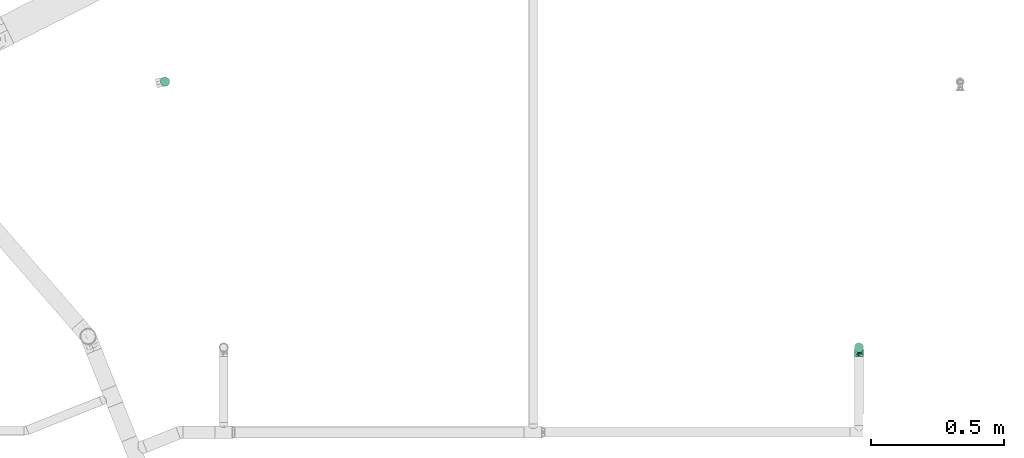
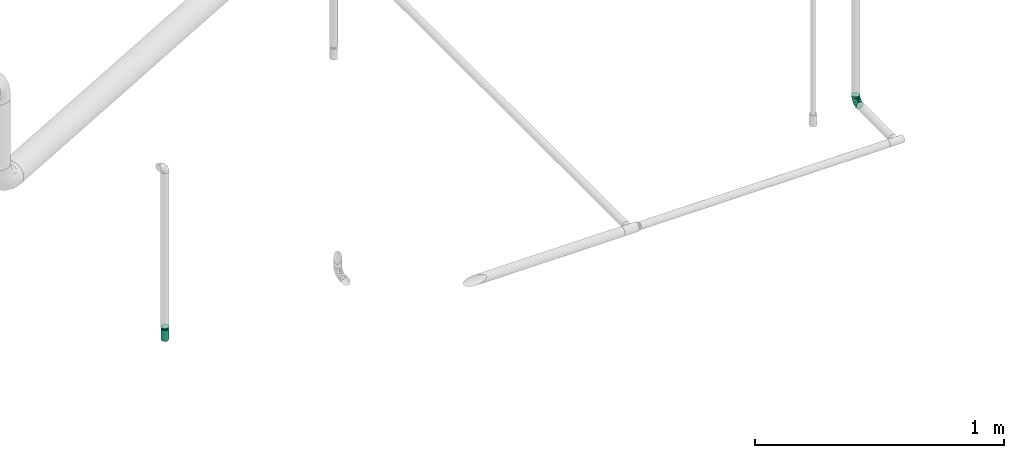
# One storey, part 46 of 94: 2 flow fittings, 1 flow terminal.
"""IFC2X3 building model written with IfcOpenShell, lengths in millimetres."""

import ifcopenshell
import ifcopenshell.guid

model = None  # the IFC model being written
_history = None  # IfcOwnerHistory: only IFC2X3 demands one
_inside = {}  # id of a spatial element -> (the spatial element, [elements in it])
_under = {}  # id of a project, library or spatial element -> (it, [spatial elements below it])
_declared = {}  # id of a project -> (the project, [libraries it declares])
_typed = {}  # id of a type object -> (the type object, [elements of that type])
_made_of = {}  # id of a material, layer set ... -> (it, [elements and type objects made of it])


def new_model(schema):
    """Start an empty IFC model of exactly this schema.

    Asked for "IFC4X3", IfcOpenShell would pick the latest addendum, in which some entities
    have other attributes; the version numbers below select the first issue.
    IFC2X3 requires an IfcOwnerHistory on every rooted entity: one is made here for all.
    """
    global model, _history
    if schema == "IFC4X3":
        model = ifcopenshell.file(schema_version=(4, 3, 0, 0))
    else:
        model = ifcopenshell.file(schema=schema)
    _inside.clear()
    _under.clear()
    _declared.clear()
    _typed.clear()
    _made_of.clear()
    _history = None
    if model.schema == "IFC2X3":
        org = make("IfcOrganization", Name="unknown")
        user = make(
            "IfcPersonAndOrganization",
            ThePerson=make("IfcPerson", FamilyName="unknown"),
            TheOrganization=org,
        )
        app = make(
            "IfcApplication",
            ApplicationDeveloper=org,
            Version="unknown",
            ApplicationFullName="unknown",
            ApplicationIdentifier="unknown",
        )
        _history = make(
            "IfcOwnerHistory",
            OwningUser=user,
            OwningApplication=app,
            ChangeAction="ADDED",
            CreationDate=0,
        )
    return model


def make(cls, **values):
    """One entity of the class cls with the attributes given. An attribute that is None is left unset."""
    return model.create_entity(
        cls, **{name: value for name, value in values.items() if value is not None}
    )


def entity(cls, *values):
    """Any entity or typed value of the class cls, its attributes in the order of the schema. None: left unset."""
    e = model.create_entity(cls)
    for i, value in enumerate(values):
        if value is not None:
            e[i] = value
    return e


def rooted(cls, **values):
    """An entity with a GlobalId (a new one), such as an element, a storey or a relation."""
    return make(cls, GlobalId=ifcopenshell.guid.new(), OwnerHistory=_history, **values)


def si_unit(unit_type, name, prefix=None):
    """IfcSIUnit, for example si_unit("LENGTHUNIT", "METRE", prefix="MILLI")."""
    return make("IfcSIUnit", UnitType=unit_type, Prefix=prefix, Name=name)


def converted_unit(unit_type, name, factor, base, dimensions=None, offset=None):
    """IfcConversionBasedUnit, such as the inch: factor (a typed value) times the base unit."""
    return make(
        "IfcConversionBasedUnit"
        if offset is None
        else "IfcConversionBasedUnitWithOffset",
        ConversionOffset=offset,
        Dimensions=None
        if dimensions is None
        else entity("IfcDimensionalExponents", *dimensions),
        UnitType=unit_type,
        Name=name,
        ConversionFactor=make(
            "IfcMeasureWithUnit", ValueComponent=factor, UnitComponent=base
        ),
    )


def derived_unit(unit_type, elements):
    """IfcDerivedUnit: a product of units, each with its exponent."""
    return make(
        "IfcDerivedUnit",
        Elements=[
            make("IfcDerivedUnitElement", Unit=unit, Exponent=power)
            for unit, power in elements
        ],
        UnitType=unit_type,
    )


def assignment(units):
    """IfcUnitAssignment: the units of a project."""
    return None if units is None else make("IfcUnitAssignment", Units=units)


def point(xyz):
    """IfcCartesianPoint."""
    return None if xyz is None else make("IfcCartesianPoint", Coordinates=xyz)


def direction(xyz):
    """IfcDirection."""
    return None if xyz is None else make("IfcDirection", DirectionRatios=xyz)


def frame(location, z_axis=None, x_axis=None):
    """IfcAxis2Placement3D, a coordinate frame: its origin and axes. An axis left out is left unset."""
    return make(
        "IfcAxis2Placement3D",
        Location=point(location),
        Axis=direction(z_axis),
        RefDirection=direction(x_axis),
    )


def origin_with_axes():
    """The frame at (0, 0, 0) with the z axis (0, 0, 1) and the x axis (1, 0, 0) written out."""
    return frame((0.0, 0.0, 0.0), z_axis=(0.0, 0.0, 1.0), x_axis=(1.0, 0.0, 0.0))


def place(relative_to, where):
    """IfcLocalPlacement: puts the frame where relative to a parent placement (None: the world)."""
    return make(
        "IfcLocalPlacement", PlacementRelTo=relative_to, RelativePlacement=where
    )


def context(
    kind, dimensions, precision=None, world=None, true_north=None, identifier=None
):
    """IfcGeometricRepresentationContext, for example the 3D "Model" context."""
    return make(
        "IfcGeometricRepresentationContext",
        ContextIdentifier=identifier,
        ContextType=kind,
        CoordinateSpaceDimension=dimensions,
        Precision=precision,
        WorldCoordinateSystem=world,
        TrueNorth=true_north,
    )


def subcontext(parent, identifier, kind, view, scale=None):
    """IfcGeometricRepresentationSubContext, for example "Body" below "Model"."""
    return make(
        "IfcGeometricRepresentationSubContext",
        ContextIdentifier=identifier,
        ContextType=kind,
        ParentContext=parent,
        TargetScale=scale,
        TargetView=view,
    )


def project(units=None, contexts=None):
    """IfcProject with its units and contexts."""
    return rooted(
        "IfcProject",
        Name="project",
        RepresentationContexts=contexts,
        UnitsInContext=assignment(units),
    )


def spatial(cls, under=None, at=None, **own):
    """A site, building, storey or space (cls), placed at a placement, below another one or the project."""
    s = rooted(cls, ObjectPlacement=at, **own)
    if under is not None:
        _under.setdefault(under.id(), (under, []))[1].append(s)
    return s


def faces_of(points, faces, orient=None, outer=None):
    """IfcFace entities. A face is a list of loops; a loop is a list of indices into points, from 0.

    orient and outer hold one flag for each loop. By default every Orientation is true, the
    first loop of a face is its IfcFaceOuterBound and the others are IfcFaceBound.
    """
    made = []
    for i, loops in enumerate(faces):
        bounds = []
        for j, loop in enumerate(loops):
            is_outer = j == 0 if outer is None else outer[i][j]
            bounds.append(
                make(
                    "IfcFaceOuterBound" if is_outer else "IfcFaceBound",
                    Bound=make("IfcPolyLoop", Polygon=[points[k] for k in loop]),
                    Orientation=True if orient is None else orient[i][j],
                )
            )
        made.append(make("IfcFace", Bounds=bounds))
    return made


def open_shell(faces, orient=None, outer=None):
    """The faces of one IfcOpenShell. surface_model builds it on its shared points."""
    return ("IfcOpenShell", faces, orient, outer)


def surface_model(cls, points, shells):
    """IfcFaceBasedSurfaceModel or IfcShellBasedSurfaceModel (cls): surfaces that need not close."""
    shared = [point(p) for p in points]
    made = [make(c, CfsFaces=faces_of(shared, fs, o, b)) for c, fs, o, b in shells]
    if cls == "IfcFaceBasedSurfaceModel":
        return make(cls, FbsmFaces=made)
    return make(cls, SbsmBoundary=made)


def shape(context_of_items, identifier, shape_type, items):
    """IfcShapeRepresentation: the items that make up one representation, for example the "Body"."""
    return make(
        "IfcShapeRepresentation",
        ContextOfItems=context_of_items,
        RepresentationIdentifier=identifier,
        RepresentationType=shape_type,
        Items=items,
    )


def source(mapping_origin, context_of_items, identifier, shape_type, items):
    """IfcRepresentationMap: a shape defined once, which mapped items show again and again."""
    return make(
        "IfcRepresentationMap",
        MappingOrigin=mapping_origin,
        MappedRepresentation=shape(context_of_items, identifier, shape_type, items),
    )


def transform(
    local_origin,
    x_axis=None,
    y_axis=None,
    z_axis=None,
    scale=None,
    scale2=None,
    scale3=None,
    uniform=True,
):
    """IfcCartesianTransformationOperator3D, or its non-uniform kind. x_axis, y_axis, z_axis: its Axis1, 2, 3."""
    if uniform:
        return make(
            "IfcCartesianTransformationOperator3D",
            Axis1=direction(x_axis),
            Axis2=direction(y_axis),
            LocalOrigin=point(local_origin),
            Scale=scale,
            Axis3=direction(z_axis),
        )
    return make(
        "IfcCartesianTransformationOperator3DnonUniform",
        Axis1=direction(x_axis),
        Axis2=direction(y_axis),
        LocalOrigin=point(local_origin),
        Scale=scale,
        Axis3=direction(z_axis),
        Scale2=scale2,
        Scale3=scale3,
    )


def mapped(mapping_source, mapping_target):
    """IfcMappedItem: shows the shape of a source again, moved by a transform."""
    return make(
        "IfcMappedItem", MappingSource=mapping_source, MappingTarget=mapping_target
    )


def made_of(thing, what):
    """Note that an element or type object is made of a material, layer set ...; save() writes the relation."""
    if what is not None:
        _made_of.setdefault(what.id(), (what, []))[1].append(thing)
    return thing


def type_object(cls, material=None, **own):
    """A type object (cls), such as IfcWallType, which elements share."""
    return made_of(rooted(cls, **own), material)


def element(
    cls,
    number,
    at=None,
    inside=None,
    cuts=None,
    type_object=None,
    material=None,
    context=None,
    identifier="Body",
    shape_type=None,
    held_by="IfcProductDefinitionShape",
    body=None,
    shapes=None,
    **own,
):
    """One element of the class cls, such as IfcWall. Its Tag is "e" and its number.

    at: its placement. inside: the storey or other place that contains it. cuts: it is an
    opening in that element (IfcRelVoidsElement). A single representation is given by context,
    identifier, shape_type and body (its items); several are given by shapes. held_by: the class
    of the entity that holds the representations. save() writes the other relations.
    """
    e = rooted(cls, Tag="e%d" % number, ObjectPlacement=at, **own)
    if body is not None:
        shapes = [shape(context, identifier, shape_type, body)]
    if shapes is not None:
        e.Representation = make(held_by, Representations=shapes)
    if inside is not None:
        _inside.setdefault(inside.id(), (inside, []))[1].append(e)
    if cuts is not None:
        rooted(
            "IfcRelVoidsElement", RelatingBuildingElement=cuts, RelatedOpeningElement=e
        )
    if type_object is not None:
        _typed.setdefault(type_object.id(), (type_object, []))[1].append(e)
    return made_of(e, material)


def aggregate(whole, parts):
    """IfcRelAggregates: a whole, such as a stair, and the parts it consists of."""
    return rooted("IfcRelAggregates", RelatingObject=whole, RelatedObjects=parts)


def save(model, path):
    """Write the relations noted so far, then the file.

    IfcRelAggregates (storeys below a building ...), IfcRelContainedInSpatialStructure (elements
    in a storey), IfcRelDefinesByType, IfcRelAssociatesMaterial and IfcRelDeclares: one each for
    every whole, place, type object, material and project.
    """
    for whole, parts in _under.values():
        aggregate(whole, parts)
    for where, things in _inside.values():
        rooted(
            "IfcRelContainedInSpatialStructure",
            RelatedElements=things,
            RelatingStructure=where,
        )
    for kind, things in _typed.values():
        rooted("IfcRelDefinesByType", RelatedObjects=things, RelatingType=kind)
    for what, things in _made_of.values():
        rooted("IfcRelAssociatesMaterial", RelatedObjects=things, RelatingMaterial=what)
    for by, libraries in _declared.values():
        rooted("IfcRelDeclares", RelatingContext=by, RelatedDefinitions=libraries)
    model.write(path)


model = new_model("IFC2X3")

# Units and contexts
model_context = context("Model", 3, precision=0.01, world=frame((0.0, 4.29681676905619e-09, 0.0)), true_north=direction((4.01073788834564e-13, 1.0)))
plan_context = context("Plan", 3, precision=0.01, world=frame((0.0, 4.29681676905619e-09, 0.0)), true_north=direction((4.01073788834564e-13, 1.0)))
body_context = subcontext(model_context, "Body", "Model", "MODEL_VIEW")
ifc_project = project(units=[converted_unit("PLANEANGLEUNIT", "DEGREE", entity("IfcPositiveLengthMeasure", 0.0174532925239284), si_unit("PLANEANGLEUNIT", "RADIAN"), dimensions=[0, 0, 0, 0, 0, 0, 0]), si_unit("AREAUNIT", "SQUARE_METRE"), si_unit("LENGTHUNIT", "METRE", prefix="MILLI"), si_unit("MASSUNIT", "GRAM", prefix="KILO"), si_unit("POWERUNIT", "WATT"), si_unit("PRESSUREUNIT", "PASCAL", prefix="KILO"), si_unit("FORCEUNIT", "NEWTON", prefix="KILO"), si_unit("ELECTRICVOLTAGEUNIT", "VOLT"), si_unit("ELECTRICCURRENTUNIT", "AMPERE"), si_unit("THERMODYNAMICTEMPERATUREUNIT", "DEGREE_CELSIUS"), si_unit("TIMEUNIT", "SECOND"), si_unit("VOLUMEUNIT", "CUBIC_METRE"), derived_unit("LINEARVELOCITYUNIT", [(si_unit("LENGTHUNIT", "METRE"), 1), (si_unit("TIMEUNIT", "SECOND"), -1)]), derived_unit("VOLUMETRICFLOWRATEUNIT", [(si_unit("VOLUMEUNIT", "CUBIC_METRE"), 1), (si_unit("TIMEUNIT", "SECOND"), -1)]), derived_unit("THERMALTRANSMITTANCEUNIT", [(si_unit("POWERUNIT", "WATT"), 1), (si_unit("THERMODYNAMICTEMPERATUREUNIT", "KELVIN"), -1), (si_unit("AREAUNIT", "SQUARE_METRE"), -1)]), derived_unit("SOUNDPRESSUREUNIT", [(si_unit("PRESSUREUNIT", "PASCAL"), 1)])], contexts=[model_context, plan_context])

# Site, building, storey
site_placement = place(None, frame((0.0, -4.29681676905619e-09, 0.0), z_axis=(0.0, 0.0, 1.0), x_axis=(1.0, 0.0, 0.0)))
site = spatial("IfcSite", under=ifc_project, at=site_placement, CompositionType="ELEMENT")
building_placement = place(site_placement, frame((0.0, 4.29681676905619e-09, 0.0), z_axis=(0.0, 0.0, 1.0), x_axis=(1.0, 0.0, 0.0)))
building = spatial("IfcBuilding", under=site, at=building_placement, Name="mc-building", CompositionType="ELEMENT")
storey_placement = place(building_placement, frame((0.0, 0.0, 210900.0), z_axis=(0.0, 0.0, 1.0), x_axis=(1.0, 0.0, 0.0)))
storey = spatial("IfcBuildingStorey", under=building, at=storey_placement, Name="Nivå F", CompositionType="ELEMENT", Elevation=210900.0)

# Flow fittings
pipe_fitting_type_1 = type_object("IfcPipeFittingType", Name="magi_pipe_fe_elbow_short_001", PredefinedType="BEND")
shared_shape_1 = source(origin_with_axes(), body_context, "Body", "SurfaceModel", [
    surface_model("IfcShellBasedSurfaceModel", [(-33.8, 8.45, -14.63583), (-33.8, 4.37404, -16.32415), (-33.8, 11.9501, -11.9501), (-33.8, -11.9501, -11.9501), (-33.8, -14.63583, -8.45), (-33.8, -8.45, -14.63583), (-33.8, 0.0, -16.9), (-33.8, -4.37404, -16.32415), (-33.8, -4.37404, 16.32415), (-33.8, 0.0, 16.9), (-33.8, -8.45, 14.63583), (-33.8, 16.32415, -4.37404), (-33.8, 14.63583, -8.45), (-33.8, -16.32415, -4.37404), (-33.8, -16.9, 0.0), (-33.8, -16.32415, 4.37404), (-33.8, 11.9501, 11.9501), (-33.8, 14.63583, 8.45), (-33.8, 16.32415, 4.37404), (-33.8, 4.37404, 16.32415), (-33.8, 8.45, 14.63583), (-33.8, -14.63583, 8.45), (-33.8, -11.9501, 11.9501), (-33.8, 16.9, 0.0), (-11.9501, 33.8, -11.9501), (0.0, 33.8, -16.9), (-4.37404, 33.8, -16.32415), (-8.45, 33.8, -14.63583), (-14.63583, 33.8, -8.45), (-16.32415, 33.8, -4.37404), (14.63583, 33.8, -8.45), (8.45, 33.8, 14.63583), (16.32415, 33.8, -4.37404), (8.45, 33.8, -14.63583), (11.9501, 33.8, -11.9501), (4.37404, 33.8, -16.32415), (16.32415, 33.8, 4.37404), (16.9, 33.8, 0.0), (-11.9501, 33.8, 11.9501), (-16.32415, 33.8, 4.37404), (-14.63583, 33.8, 8.45), (-8.45, 33.8, 14.63583), (-4.37404, 33.8, 16.32415), (11.9501, 33.8, 11.9501), (14.63583, 33.8, 8.45), (0.0, 33.8, 16.9), (4.37404, 33.8, 16.32415), (-16.9, 33.8, 0.0), (-24.79389, -13.12945, 9.48721), (-22.19287, -9.75018, 12.59315), (-24.09897, -14.97035, 0.0), (-14.93934, -10.76256, 8.5297), (-22.46095, -14.75051, 5.27077), (14.75051, 22.46094, 5.27077), (11.9251, 13.23888, 4.33236), (13.04069, 14.39795, 0.0), (7.71387, 13.68847, 11.55891), (9.75018, 22.19287, 12.59315), (4.10169, 13.0571, 14.04018), (-24.84007, -6.39063, 15.2048), (-25.81779, -2.23879, 16.61097), (-23.66549, 2.59054, 16.87119), (-26.50418, 14.06512, 11.08152), (-24.21253, 17.66365, 7.72657), (-29.58514, 15.86957, 7.00283), (-6.17382, -7.5455, 0.0), (-13.23888, -11.9251, 4.33236), (-14.39795, -13.04069, 0.0), (-17.81434, 18.87373, 11.97104), (-6.30846, 29.15138, 15.82987), (-2.31622, 25.28002, 16.85849), (-29.23923, 10.23435, 13.77053), (-1.45439, -2.85688, 7.61475), (-0.28326, 0.34872, 10.09509), (-5.74484, -4.04709, 10.4122), (-4.41137, 11.31918, 16.59407), (-8.39727, 3.10034, 15.7812), (-1.72649, 9.1306, 15.53089), (-17.39909, 24.75344, 7.64977), (-26.19233, 20.0512, 0.0), (-28.14518, 17.29657, 4.25857), (-26.05147, 6.6281, 15.96447), (-5.87354, 16.61944, 16.86968), (-12.51807, 12.51807, 16.48937), (-10.06312, 7.38516, 16.81295), (-3.01882, 3.01882, 13.81718), (-13.0571, -4.10169, 14.04018), (-16.82553, -0.15166, 16.38038), (10.76256, 14.93934, 8.5297), (13.12945, 24.79389, 9.48721), (6.39063, 24.84007, 15.2048), (2.23879, 25.81779, 16.61097), (-13.68847, -7.71387, 11.55891), (14.97035, 24.09897, 0.0), (-7.30894, 22.89991, 16.09489), (-10.67958, 26.17414, 14.008), (-12.78295, 18.26924, 15.06066), (-13.88562, 22.45231, 12.93244), (-18.04944, 15.16501, 14.04434), (-23.11658, 20.08178, 4.02986), (-21.84989, 21.84989, 0.0), (-18.55817, 25.48277, 3.93065), (-13.95142, 26.94732, 11.03289), (-18.57098, 7.23906, 16.59756), (-16.58335, 4.14122, 16.89279), (-17.96666, 11.46709, 15.63151), (-9.84453, 17.54304, 16.18938), (0.15166, 16.82553, 16.38038), (-23.27207, 11.47201, 14.23154), (3.84842, 5.86994, 10.70473), (-8.0212, -7.54413, 7.93275), (1.00345, -2.19508, 4.57414), (5.13203, 3.01004, 5.90201), (5.24161, 1.7543, 2.53265), (8.70457, 7.04947, 3.99182), (-20.0512, 26.19233, 0.0), (8.4852, 8.76699, 7.09296), (-4.55488, -6.72064, 4.90681), (2.05031, -2.05031, 0.0), (7.5455, 6.17382, 0.0), (-26.75399, 2.1369, -16.845), (-14.61995, 24.73803, -11.27736), (-28.45274, -13.45335, -9.81895), (-26.00469, 6.63555, -15.96645), (-23.06726, 20.04573, -4.26202), (-13.80647, -4.26506, -14.17873), (-14.67501, -0.21081, -16.07388), (-6.7902, -0.2828, -13.8478), (-24.53586, 11.08096, -14.13417), (-26.72048, 14.00837, -11.05776), (10.0967, 24.44989, -12.75976), (5.83237, 21.40218, -15.03047), (6.66249, 28.54238, -15.38093), (-20.38182, 15.48705, -12.74596), (12.53268, 21.23441, -9.15363), (12.54494, 15.67504, -5.54878), (9.7522, 12.89279, -8.66343), (-15.65186, 19.64213, -13.01327), (-12.03528, 20.66498, -14.67665), (-15.61907, 15.61906, -14.83879), (-25.56551, -15.26206, 0.0), (-24.65452, -15.12934, -5.50955), (13.45335, 28.45274, -9.81895), (15.12934, 24.65452, -5.50955), (-7.35442, -8.31014, -5.65563), (-15.67504, -12.54494, -5.54878), (-24.44989, -10.0967, -12.75976), (0.16522, 0.41303, -9.71728), (-5.70658, -5.33066, -8.89288), (-5.13869, -2.37198, -11.53565), (-21.23441, -12.53268, -9.15363), (0.71146, 7.93863, -14.09382), (0.21081, 14.67501, -16.07388), (3.49291, 14.42772, -14.76381), (-24.89911, -2.13088, -16.591), (-28.54238, -6.66249, -15.38093), (-18.44386, -7.71663, -13.26957), (2.13088, 24.89911, -16.591), (-28.64342, 17.44413, -2.89318), (1.70017, -1.28722, -5.09504), (-16.57067, 26.81947, -7.36596), (-17.69055, 27.4263, -3.76405), (-12.89279, -9.7522, -8.66343), (-5.96611, 5.96611, -15.95814), (-20.53709, 20.09345, -8.28985), (-2.1369, 26.75399, -16.845), (-6.89872, 24.58781, -16.02578), (-10.60739, 26.53157, -13.98044), (-21.40218, -5.83237, -15.03047), (2.93192, 5.89627, -11.55917), (6.89393, 12.61842, -11.82233), (5.58056, 5.95325, -8.79455), (-3.99512, 18.61798, -16.89635), (8.31014, 7.35442, -5.65563), (-9.1383, 9.86148, -16.89041), (-9.99983, 16.02119, -16.39699), (-16.68576, 9.78031, -16.34199), (-27.01915, 16.61158, -7.12979), (15.26206, 25.56551, 0.0), (-18.61798, 3.99512, -16.89635), (-19.37495, 27.82495, 0.0), (-12.61842, -6.89393, -11.82233), (-18.84705, 19.14018, -10.96545)], [open_shell([[[0, 1, 2]], [[3, 4, 5]], [[6, 7, 5]], [[8, 9, 10]], [[1, 6, 2]], [[11, 12, 2]], [[4, 2, 6]], [[2, 13, 10]], [[5, 4, 6]], [[2, 4, 13]], [[14, 15, 13]], [[11, 2, 16]], [[11, 17, 18]], [[11, 16, 17]], [[19, 20, 16]], [[16, 2, 10]], [[19, 16, 10]], [[21, 22, 15]], [[22, 13, 15]], [[22, 10, 13]], [[10, 9, 19]], [[11, 18, 23]], [[24, 25, 26]], [[24, 26, 27]], [[24, 28, 29]], [[25, 24, 30]], [[31, 32, 24]], [[33, 30, 34]], [[33, 35, 25]], [[25, 30, 33]], [[32, 30, 24]], [[32, 36, 37]], [[38, 24, 29]], [[39, 40, 29]], [[40, 38, 29]], [[38, 41, 42]], [[38, 31, 24]], [[31, 38, 42]], [[36, 43, 44]], [[36, 32, 43]], [[31, 45, 46]], [[32, 31, 43]], [[42, 45, 31]], [[39, 29, 47]], [[22, 48, 49]], [[15, 14, 50]], [[51, 48, 52]], [[53, 54, 55]], [[48, 22, 21]], [[15, 52, 21]], [[56, 57, 58]], [[49, 10, 22]], [[49, 59, 10]], [[9, 60, 61]], [[62, 63, 64]], [[65, 66, 67]], [[57, 43, 31]], [[62, 68, 63]], [[42, 69, 70]], [[20, 71, 16]], [[8, 60, 9]], [[72, 73, 74]], [[75, 76, 77]], [[16, 62, 17]], [[40, 39, 78]], [[79, 23, 80]], [[64, 18, 17]], [[9, 61, 19]], [[19, 81, 20]], [[82, 83, 84]], [[74, 85, 86]], [[59, 86, 87]], [[88, 89, 57]], [[90, 31, 46]], [[44, 53, 36]], [[46, 45, 91]], [[54, 53, 88]], [[44, 89, 53]], [[92, 86, 49]], [[89, 44, 43]], [[10, 59, 8]], [[53, 55, 93]], [[93, 36, 53]], [[66, 52, 67]], [[94, 82, 70]], [[95, 96, 94]], [[97, 98, 96]], [[79, 99, 100]], [[41, 38, 95]], [[101, 100, 99]], [[68, 78, 63]], [[42, 41, 69]], [[23, 18, 80]], [[95, 94, 69]], [[78, 101, 99]], [[38, 102, 95]], [[70, 45, 42]], [[97, 95, 102]], [[15, 50, 52]], [[90, 57, 31]], [[57, 90, 58]], [[81, 19, 61]], [[103, 104, 84]], [[105, 81, 103]], [[38, 40, 102]], [[106, 96, 83]], [[94, 106, 82]], [[91, 70, 107]], [[71, 62, 16]], [[62, 108, 98]], [[86, 59, 49]], [[67, 52, 50]], [[60, 59, 87]], [[92, 49, 51]], [[86, 85, 76]], [[91, 90, 46]], [[37, 36, 93]], [[107, 77, 58]], [[107, 58, 90]], [[58, 85, 109]], [[110, 74, 92]], [[72, 74, 110]], [[66, 51, 52]], [[72, 111, 112]], [[113, 114, 112]], [[56, 88, 57]], [[52, 48, 21]], [[49, 48, 51]], [[57, 89, 43]], [[53, 89, 88]], [[103, 81, 61]], [[71, 81, 108]], [[18, 64, 80]], [[63, 78, 99]], [[47, 115, 101]], [[101, 115, 100]], [[40, 78, 102]], [[68, 102, 78]], [[97, 96, 95]], [[105, 98, 108]], [[103, 84, 83]], [[107, 70, 82]], [[76, 84, 87]], [[82, 84, 75]], [[70, 91, 45]], [[90, 91, 107]], [[59, 60, 8]], [[61, 60, 87]], [[73, 85, 74]], [[109, 112, 116]], [[103, 61, 104]], [[105, 103, 83]], [[96, 105, 83]], [[81, 105, 108]], [[96, 98, 105]], [[62, 98, 68]], [[61, 87, 104]], [[87, 84, 104]], [[86, 76, 87]], [[77, 76, 85]], [[58, 77, 85]], [[75, 77, 107]], [[82, 75, 107]], [[76, 75, 84]], [[81, 71, 20]], [[62, 71, 108]], [[95, 69, 41]], [[70, 69, 94]], [[62, 64, 17]], [[80, 63, 99]], [[63, 80, 64]], [[80, 99, 79]], [[66, 65, 117]], [[110, 66, 117]], [[112, 114, 116]], [[118, 117, 65]], [[110, 92, 51]], [[112, 111, 113]], [[119, 55, 54]], [[74, 86, 92]], [[58, 109, 56]], [[116, 56, 109]], [[66, 110, 51]], [[72, 110, 117]], [[111, 72, 117]], [[73, 112, 109]], [[117, 118, 111]], [[113, 111, 118]], [[118, 119, 113]], [[114, 119, 54]], [[119, 114, 113]], [[116, 54, 88]], [[54, 116, 114]], [[116, 88, 56]], [[112, 73, 72]], [[85, 73, 109]], [[78, 39, 101]], [[47, 101, 39]], [[102, 68, 97]], [[97, 68, 98]], [[82, 106, 83]], [[94, 96, 106]], [[1, 120, 6]], [[28, 24, 121]], [[3, 122, 4]], [[0, 123, 1]], [[100, 124, 79]], [[125, 126, 127]], [[128, 2, 129]], [[130, 131, 132]], [[128, 129, 133]], [[134, 135, 136]], [[137, 138, 139]], [[128, 0, 2]], [[67, 140, 141]], [[134, 142, 143]], [[141, 13, 4]], [[144, 65, 145]], [[146, 3, 5]], [[147, 148, 149]], [[145, 141, 150]], [[151, 152, 153]], [[154, 7, 6]], [[5, 155, 146]], [[150, 146, 156]], [[155, 5, 7]], [[143, 135, 134]], [[35, 157, 25]], [[23, 79, 158]], [[148, 159, 144]], [[160, 161, 29]], [[145, 162, 144]], [[163, 152, 151]], [[29, 28, 160]], [[121, 164, 160]], [[33, 34, 130]], [[25, 165, 26]], [[26, 165, 166]], [[142, 34, 30]], [[24, 27, 167]], [[124, 161, 164]], [[157, 35, 132]], [[155, 154, 168]], [[123, 0, 128]], [[169, 170, 171]], [[172, 157, 152]], [[26, 166, 27]], [[132, 35, 33]], [[142, 130, 34]], [[168, 154, 126]], [[136, 135, 173]], [[133, 137, 139]], [[2, 12, 129]], [[170, 131, 130]], [[30, 32, 143]], [[172, 174, 175]], [[176, 123, 128]], [[158, 177, 11]], [[135, 55, 119]], [[167, 27, 166]], [[175, 166, 172]], [[137, 167, 138]], [[122, 141, 4]], [[140, 14, 13]], [[32, 37, 178]], [[170, 130, 134]], [[152, 157, 131]], [[165, 157, 172]], [[153, 170, 151]], [[152, 163, 174]], [[168, 125, 156]], [[122, 146, 150]], [[120, 154, 6]], [[179, 174, 126]], [[179, 126, 154]], [[126, 163, 127]], [[162, 145, 150]], [[140, 13, 141]], [[32, 178, 143]], [[55, 143, 178]], [[177, 129, 12]], [[128, 133, 139]], [[176, 128, 139]], [[120, 123, 179]], [[121, 160, 28]], [[161, 100, 180]], [[166, 175, 138]], [[121, 24, 167]], [[161, 47, 29]], [[79, 124, 158]], [[124, 164, 177]], [[161, 124, 100]], [[136, 171, 170]], [[127, 163, 151]], [[147, 171, 159]], [[148, 144, 162]], [[127, 151, 169]], [[127, 181, 125]], [[129, 177, 164]], [[12, 11, 177]], [[159, 65, 144]], [[67, 141, 145]], [[143, 55, 135]], [[135, 119, 173]], [[123, 120, 1]], [[154, 120, 179]], [[157, 165, 25]], [[166, 165, 172]], [[172, 152, 174]], [[176, 139, 175]], [[126, 174, 163]], [[176, 174, 179]], [[174, 176, 175]], [[123, 176, 179]], [[150, 181, 162]], [[127, 149, 181]], [[181, 148, 162]], [[159, 148, 147]], [[171, 136, 173]], [[170, 134, 136]], [[159, 171, 173]], [[171, 147, 169]], [[169, 147, 149]], [[151, 170, 169]], [[164, 182, 129]], [[182, 121, 137]], [[181, 149, 148]], [[169, 149, 127]], [[182, 137, 133]], [[167, 137, 121]], [[166, 138, 167]], [[175, 139, 138]], [[129, 182, 133]], [[121, 182, 164]], [[161, 160, 164]], [[47, 161, 180]], [[177, 158, 124]], [[23, 158, 11]], [[130, 132, 33]], [[157, 132, 131]], [[143, 142, 30]], [[130, 142, 134]], [[154, 155, 7]], [[146, 155, 168]], [[146, 122, 3]], [[141, 122, 150]], [[152, 131, 153]], [[159, 119, 118]], [[67, 145, 65]], [[170, 153, 131]], [[119, 159, 173]], [[159, 118, 65]], [[156, 125, 181]], [[126, 125, 168]], [[150, 156, 181]], [[168, 156, 146]]])]),
])
flow_fitting_1_placement = place(storey_placement, frame((721618.28055, 441198.08755, 3600.0), z_axis=(1.0, 0.0, 0.0), x_axis=(0.0, 1.0, 0.0)))
element("IfcFlowFitting", 1, at=flow_fitting_1_placement, inside=storey, type_object=pipe_fitting_type_1, Name="magi_pipe_fe_elbow_short_001", context=body_context, shape_type="MappedRepresentation", body=[
    mapped(shared_shape_1, transform((0.0, 0.0, 0.0), scale=1.0)),
])
pipe_fitting_type_2 = type_object("IfcPipeFittingType", Name="magi_pipe_fe_reducer_centric_short_NOR", PredefinedType="TRANSITION")
shared_shape_2 = source(origin_with_axes(), body_context, "Body", "SurfaceModel", [
    surface_model("IfcShellBasedSurfaceModel", [(-2.0, -7.56604, -7.56604), (-2.0, -10.33541, -2.76936), (-2.0, -5.35, -9.26647), (-2.0, 5.35, -9.26647), (-2.0, 10.33541, -2.76936), (-2.0, 7.56604, -7.56604), (12.4, 11.9501, 11.9501), (12.4, 0.0, 16.9), (12.4, 11.9501, -11.9501), (12.4, 16.9, 0.0), (0.0, -10.7, 0.0), (0.0, -5.35, 9.26647), (0.0, -5.35, -9.26647), (0.0, 10.7, 0.0), (12.4, 15.66253, -2.98753), (12.4, 8.96258, -13.18758), (0.0, 6.6875, -6.94985), (12.4, -15.66253, -2.98753), (12.4, -16.9, 0.0), (12.4, 5.97505, -14.42505), (0.0, 5.35, -9.26647), (12.4, 14.42505, -5.97505), (0.0, 8.025, -4.63324), (0.0, 9.3625, -2.31662), (0.0, -9.3625, -2.31662), (0.0, -8.025, -4.63324), (12.4, -14.42505, -5.97505), (12.4, 13.18758, -8.96258), (12.4, -13.18758, -8.96258), (12.4, -11.9501, -11.9501), (0.0, -6.6875, -6.94985), (12.4, -8.96258, -13.18758), (12.4, -5.97505, -14.42505), (12.4, -15.66253, 2.98753), (12.4, -8.96258, 13.18758), (0.0, -6.6875, 6.94985), (12.4, -11.9501, 11.9501), (12.4, 15.66253, 2.98753), (12.4, -5.97505, 14.42505), (12.4, -14.42505, 5.97505), (0.0, -8.025, 4.63324), (0.0, -9.3625, 2.31662), (0.0, 9.3625, 2.31662), (0.0, 8.025, 4.63324), (12.4, 14.42505, 5.97505), (12.4, -13.18758, 8.96258), (12.4, 13.18758, 8.96258), (0.0, 6.6875, 6.94985), (12.4, 8.96258, 13.18758), (0.0, 5.35, 9.26647), (12.4, 5.97505, 14.42505), (14.4, 4.37404, -16.32415), (14.4, 8.45, -14.63583), (14.4, 11.9501, -11.9501), (14.4, -8.45, -14.63583), (14.4, 16.32415, -4.37404), (14.4, 16.32415, 4.37404), (14.4, 14.63583, -8.45), (14.4, 0.0, -16.9), (14.4, -4.37404, -16.32415), (14.4, -11.9501, -11.9501), (14.4, -16.32415, -4.37404), (14.4, -14.63583, -8.45), (14.4, -16.32415, 4.37404), (14.4, 16.9, 0.0), (14.4, 14.63583, 8.45), (14.4, 11.9501, 11.9501), (14.4, 4.37404, 16.32415), (14.4, 8.45, 14.63583), (14.4, 0.0, 16.9), (14.4, -14.63583, 8.45), (14.4, -16.9, 0.0), (14.4, -8.45, 14.63583), (14.4, -11.9501, 11.9501), (14.4, -4.37404, 16.32415), (12.4, 4.37404, 16.32415), (12.4, -14.63583, 8.45), (12.4, 16.32415, 4.37404), (12.4, 8.45, 14.63583), (12.4, 14.63583, 8.45), (12.4, -8.45, 14.63583), (12.4, -4.37404, 16.32415), (12.4, -16.32415, 4.37404), (12.4, -16.32415, -4.37404), (12.4, -8.45, -14.63583), (12.4, 16.32415, -4.37404), (12.4, 14.63583, -8.45), (12.4, 8.45, -14.63583), (12.4, 4.37404, -16.32415), (12.4, 0.0, -16.9), (12.4, -14.63583, -8.45), (12.4, -4.37404, -16.32415), (-2.0, 2.76936, 10.33541), (-2.0, 0.0, 10.7), (-2.0, 5.35, 9.26647), (-2.0, 7.56604, 7.56604), (-2.0, 9.26647, 5.35), (-2.0, 10.33541, 2.76936), (-2.0, -10.33541, 2.76936), (-2.0, -2.76936, 10.33541), (-2.0, -7.56604, 7.56604), (-2.0, -5.35, 9.26647), (-2.0, -9.26647, 5.35), (-2.0, -10.7, 0.0), (-2.0, 9.26647, -5.35), (-2.0, 2.76936, -10.33541), (-2.0, -9.26647, -5.35), (-2.0, 0.0, -10.7), (-2.0, -2.76936, -10.33541), (-2.0, 10.7, 0.0), (0.0, 0.0, -10.7), (0.0, 2.76936, -10.33541), (0.0, 10.33541, -2.76936), (0.0, 7.56604, -7.56604), (0.0, -10.33541, -2.76936), (0.0, 9.26647, -5.35), (0.0, 0.0, 10.7), (0.0, -2.76936, -10.33541), (0.0, -7.56604, -7.56604), (0.0, -9.26647, -5.35), (0.0, 10.33541, 2.76936), (0.0, 9.26647, 5.35), (0.0, 7.56604, 7.56604), (0.0, 2.76936, 10.33541), (0.0, -7.56604, 7.56604), (0.0, -10.33541, 2.76936), (0.0, -9.26647, 5.35), (0.0, -2.76936, 10.33541), (0.0, 2.675, -9.26647), (0.0, -2.675, -9.26647), (12.4, 2.98753, -15.66253), (0.0, 0.0, -9.26647), (12.4, -2.98753, -15.66253), (0.0, -2.675, 9.26647), (0.0, 2.675, 9.26647), (12.4, -2.98753, 15.66253), (0.0, 0.0, 9.26647), (12.4, 2.98753, 15.66253)], [open_shell([[[0, 1, 2]], [[3, 4, 5]], [[6, 7, 8]], [[8, 9, 6]], [[10, 11, 12]], [[13, 9, 14]], [[15, 16, 8]], [[17, 18, 10]], [[15, 19, 20]], [[21, 22, 23]], [[24, 25, 26]], [[22, 21, 27]], [[28, 26, 25]], [[29, 30, 31]], [[12, 32, 31]], [[10, 18, 33]], [[34, 35, 36]], [[37, 9, 13]], [[34, 38, 11]], [[39, 40, 41]], [[42, 43, 44]], [[40, 39, 45]], [[46, 44, 43]], [[6, 47, 48]], [[49, 50, 48]], [[51, 52, 53]], [[54, 51, 53]], [[53, 55, 56]], [[55, 53, 57]], [[53, 56, 54]], [[58, 54, 59]], [[58, 51, 54]], [[60, 61, 62]], [[61, 60, 54]], [[54, 63, 61]], [[56, 55, 64]], [[56, 65, 66]], [[56, 66, 67]], [[67, 63, 54]], [[67, 66, 68]], [[63, 67, 69]], [[69, 70, 63]], [[71, 61, 63]], [[70, 72, 73]], [[70, 69, 72]], [[72, 69, 74]], [[54, 56, 67]], [[75, 76, 7]], [[77, 75, 78]], [[6, 79, 77]], [[6, 77, 78]], [[76, 75, 77]], [[80, 76, 36]], [[80, 81, 7]], [[7, 76, 80]], [[82, 76, 77]], [[82, 83, 18]], [[82, 77, 84]], [[77, 85, 8]], [[8, 85, 86]], [[8, 87, 88]], [[84, 77, 8]], [[88, 89, 8]], [[83, 29, 90]], [[29, 83, 84]], [[84, 89, 91]], [[83, 82, 84]], [[8, 89, 84]], [[85, 77, 9]], [[83, 61, 18]], [[90, 62, 83]], [[54, 29, 84]], [[90, 29, 60]], [[59, 84, 91]], [[83, 62, 61]], [[61, 71, 18]], [[59, 54, 84]], [[60, 29, 54]], [[60, 62, 90]], [[58, 59, 91]], [[91, 89, 58]], [[88, 51, 89]], [[87, 52, 88]], [[57, 8, 86]], [[87, 8, 53]], [[55, 86, 85]], [[87, 53, 52]], [[52, 51, 88]], [[64, 55, 85]], [[57, 86, 55]], [[57, 53, 8]], [[9, 64, 85]], [[89, 51, 58]], [[77, 56, 9]], [[79, 65, 77]], [[68, 6, 78]], [[79, 6, 66]], [[67, 78, 75]], [[77, 65, 56]], [[56, 64, 9]], [[67, 68, 78]], [[66, 6, 68]], [[66, 65, 79]], [[69, 67, 75]], [[75, 7, 69]], [[81, 74, 7]], [[80, 72, 81]], [[70, 36, 76]], [[80, 36, 73]], [[63, 76, 82]], [[80, 73, 72]], [[72, 74, 81]], [[71, 63, 82]], [[70, 76, 63]], [[70, 73, 36]], [[18, 71, 82]], [[7, 74, 69]], [[92, 1, 93]], [[94, 1, 92]], [[95, 96, 97]], [[95, 97, 94]], [[98, 93, 1]], [[99, 100, 101]], [[99, 93, 100]], [[100, 98, 102]], [[93, 98, 100]], [[98, 1, 103]], [[94, 97, 1]], [[1, 97, 4]], [[5, 4, 104]], [[4, 3, 1]], [[105, 1, 3]], [[1, 0, 106]], [[2, 107, 108]], [[2, 1, 105]], [[105, 107, 2]], [[4, 97, 109]], [[20, 110, 111]], [[112, 20, 113]], [[114, 20, 112]], [[112, 113, 115]], [[116, 114, 112]], [[110, 12, 117]], [[110, 20, 12]], [[118, 114, 119]], [[114, 118, 12]], [[20, 114, 12]], [[112, 13, 120]], [[120, 121, 122]], [[120, 122, 123]], [[116, 112, 123]], [[123, 122, 49]], [[116, 124, 114]], [[125, 124, 126]], [[10, 114, 125]], [[124, 127, 11]], [[125, 114, 124]], [[127, 124, 116]], [[123, 112, 120]], [[1, 114, 103]], [[106, 119, 1]], [[12, 0, 2]], [[106, 0, 118]], [[117, 2, 108]], [[1, 119, 114]], [[114, 10, 103]], [[117, 12, 2]], [[118, 0, 12]], [[118, 119, 106]], [[110, 117, 108]], [[108, 107, 110]], [[105, 111, 107]], [[3, 20, 105]], [[115, 5, 104]], [[3, 5, 113]], [[112, 104, 4]], [[3, 113, 20]], [[20, 111, 105]], [[13, 112, 4]], [[115, 104, 112]], [[115, 113, 5]], [[109, 13, 4]], [[107, 111, 110]], [[97, 120, 109]], [[96, 121, 97]], [[49, 95, 94]], [[96, 95, 122]], [[123, 94, 92]], [[97, 121, 120]], [[120, 13, 109]], [[123, 49, 94]], [[122, 95, 49]], [[122, 121, 96]], [[116, 123, 92]], [[92, 93, 116]], [[99, 127, 93]], [[101, 11, 99]], [[126, 100, 102]], [[101, 100, 124]], [[125, 102, 98]], [[101, 124, 11]], [[11, 127, 99]], [[10, 125, 98]], [[126, 102, 125]], [[126, 124, 100]], [[103, 10, 98]], [[93, 127, 116]], [[18, 7, 36]], [[18, 29, 8]], [[89, 8, 29]], [[18, 8, 7]], [[13, 11, 49]], [[13, 20, 12]], [[13, 12, 11]], [[24, 26, 17]], [[10, 24, 17]], [[16, 15, 20]], [[30, 12, 31]], [[23, 14, 21]], [[19, 128, 20]], [[27, 8, 16]], [[32, 12, 129]], [[30, 28, 25]], [[130, 131, 128]], [[129, 132, 32]], [[16, 22, 27]], [[13, 14, 23]], [[128, 19, 130]], [[130, 89, 131]], [[131, 132, 129]], [[89, 132, 131]], [[28, 30, 29]], [[42, 44, 37]], [[13, 42, 37]], [[35, 34, 11]], [[47, 49, 48]], [[41, 33, 39]], [[38, 133, 11]], [[45, 36, 35]], [[50, 49, 134]], [[47, 46, 43]], [[135, 136, 133]], [[134, 137, 50]], [[35, 40, 45]], [[10, 33, 41]], [[133, 38, 135]], [[135, 7, 136]], [[136, 137, 134]], [[7, 137, 136]], [[46, 47, 6]]])]),
])
flow_fitting_2_placement = place(storey_placement, frame((719000.0, 442200.7, 2794.49074000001), z_axis=(0.0, 1.0, 0.0), x_axis=(0.0, 0.0, 1.0)))
element("IfcFlowFitting", 2, at=flow_fitting_2_placement, inside=storey, type_object=pipe_fitting_type_2, Name="magi_pipe_fe_reducer_centric_short_NOR", context=body_context, shape_type="MappedRepresentation", body=[
    mapped(shared_shape_2, transform((0.0, 0.0, 0.0), scale=1.0)),
])

# Flow terminal
fire_suppression_terminal_type = type_object("IfcFireSuppressionTerminalType", Name="SP-15-K80-68DGR-STD-HIMLING", PredefinedType="NOTDEFINED")
shared_shape_3 = source(origin_with_axes(), body_context, "Body", "SurfaceModel", [
    surface_model("IfcShellBasedSurfaceModel", [(4.1411, -15.45481, 53.0), (8.0, -13.85641, 53.0), (11.31371, -11.31371, 53.0), (-8.0, -13.85641, 53.0), (15.45481, -4.1411, 53.0), (16.0, 0.0, 53.0), (13.85641, -8.0, 53.0), (0.0, -16.0, 53.0), (-4.1411, -15.45481, 53.0), (-13.85641, -8.0, 53.0), (-11.31371, -11.31371, 53.0), (-15.45481, -4.1411, 53.0), (15.45481, 4.1411, 53.0), (13.85641, 8.0, 53.0), (11.31371, 11.31371, 53.0), (-4.1411, 15.45481, 53.0), (8.0, 13.85641, 53.0), (4.1411, 15.45481, 53.0), (0.0, 16.0, 53.0), (-13.85641, 8.0, 53.0), (-15.45481, 4.1411, 53.0), (-16.0, 0.0, 53.0), (-11.31371, 11.31371, 53.0), (-8.0, 13.85641, 53.0), (0.0, 16.0, 0.0), (4.1411, 15.45481, 0.0), (8.0, 13.85641, 0.0), (-4.1411, 15.45481, 0.0), (11.31371, 11.31371, 0.0), (13.85641, 8.0, 0.0), (15.45481, 4.1411, 0.0), (-15.45481, -4.1411, 0.0), (-11.31371, 11.31371, 0.0), (-8.0, 13.85641, 0.0), (-13.85641, 8.0, 0.0), (-15.45481, 4.1411, 0.0), (-16.0, 0.0, 0.0), (4.1411, -15.45481, 0.0), (16.0, 0.0, 0.0), (15.45481, -4.1411, 0.0), (13.85641, -8.0, 0.0), (11.31371, -11.31371, 0.0), (8.0, -13.85641, 0.0), (-8.0, -13.85641, 0.0), (-13.85641, -8.0, 0.0), (-11.31371, -11.31371, 0.0), (0.0, -16.0, 0.0), (-4.1411, -15.45481, 0.0)], [open_shell([[[0, 1, 2]], [[3, 0, 2]], [[4, 5, 2]], [[4, 2, 6]], [[3, 2, 5]], [[7, 3, 8]], [[7, 0, 3]], [[3, 9, 10]], [[9, 3, 11]], [[5, 11, 3]], [[5, 12, 11]], [[12, 13, 14]], [[15, 12, 14]], [[16, 17, 18]], [[14, 16, 15]], [[18, 15, 16]], [[11, 19, 20]], [[21, 11, 20]], [[22, 15, 23]], [[15, 22, 19]], [[19, 11, 15]], [[11, 12, 15]], [[24, 25, 26]], [[27, 24, 26]], [[28, 29, 30]], [[27, 26, 28]], [[27, 28, 31]], [[27, 32, 33]], [[32, 27, 34]], [[34, 31, 35]], [[31, 34, 27]], [[35, 31, 36]], [[28, 30, 31]], [[37, 38, 39]], [[37, 39, 40]], [[41, 42, 37]], [[41, 37, 40]], [[38, 37, 43]], [[44, 43, 45]], [[43, 44, 31]], [[43, 46, 47]], [[43, 31, 38]], [[37, 46, 43]], [[38, 31, 30]], [[11, 31, 44]], [[45, 9, 44]], [[3, 43, 47]], [[45, 43, 10]], [[8, 47, 46]], [[31, 21, 36]], [[31, 11, 21]], [[44, 9, 11]], [[45, 10, 9]], [[3, 10, 43]], [[47, 8, 3]], [[46, 7, 8]], [[0, 37, 42]], [[41, 1, 42]], [[6, 40, 39]], [[41, 40, 2]], [[4, 39, 38]], [[37, 0, 7]], [[42, 1, 0]], [[41, 2, 1]], [[40, 6, 2]], [[4, 6, 39]], [[38, 5, 4]], [[37, 7, 46]], [[12, 38, 30]], [[13, 30, 29]], [[16, 26, 25]], [[17, 25, 24]], [[30, 13, 12]], [[12, 5, 38]], [[28, 14, 13]], [[28, 26, 14]], [[14, 26, 16]], [[25, 17, 16]], [[28, 13, 29]], [[24, 18, 17]], [[15, 27, 33]], [[32, 23, 33]], [[19, 34, 35]], [[32, 34, 22]], [[20, 35, 36]], [[27, 15, 18]], [[33, 23, 15]], [[32, 22, 23]], [[34, 19, 22]], [[20, 19, 35]], [[36, 21, 20]], [[27, 18, 24]]])]),
])
flow_terminal_placement = place(storey_placement, frame((719000.0, 442200.7, 2797.53873999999), z_axis=(0.0, 0.0, -1.0), x_axis=(-1.0, 0.0, 0.0)))
element("IfcFlowTerminal", 3, at=flow_terminal_placement, inside=storey, type_object=fire_suppression_terminal_type, Name="SP-15-K80-68DGR-STD-HIMLING", context=body_context, shape_type="MappedRepresentation", body=[
    mapped(shared_shape_3, transform((0.0, 0.0, 0.0), scale=1.0)),
])

save(model, "model.ifc")
